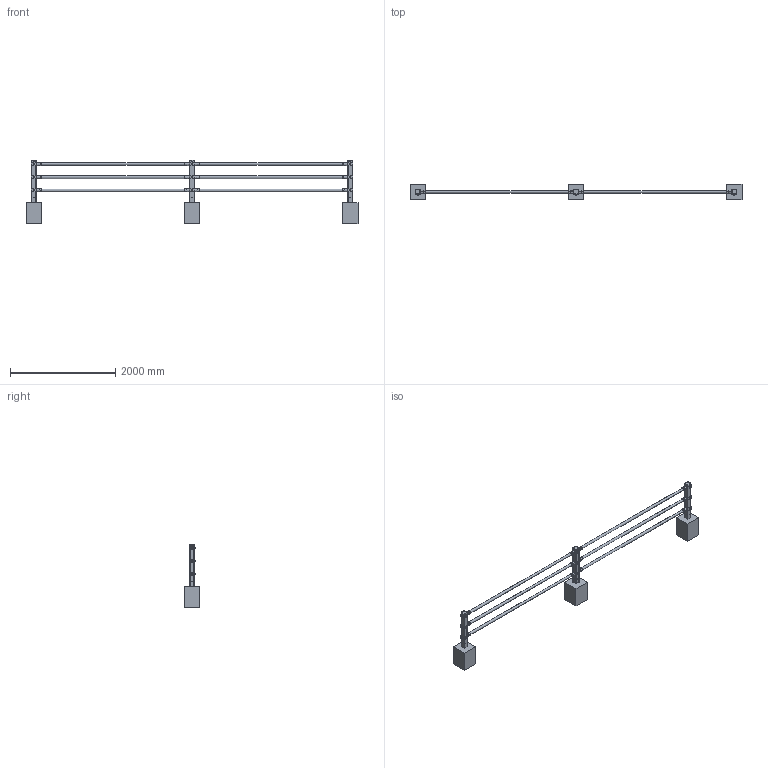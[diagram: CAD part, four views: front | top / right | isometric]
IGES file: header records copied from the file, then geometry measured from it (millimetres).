
Global section: file name: 07ロッドフェンスRF12-直線タイプ,35HAutoCAD 2025 - 日本語 (; native system: Japanese); preprocessor: Autodesk Translation Framework DWG producer (atf_dwg_producer); organization: unknown; date: 20260406.105847; units: millimetre
Bounding box: 6300 x 300 x 1200 mm (x, y, z)
Volume: 125535483.5 mm3; surface area: 10942853.1 mm2
Topology: 145 solids, 145 shells, 3062 faces, 7850 edges, 5077 vertices
Faces by surface type: bspline 3062
